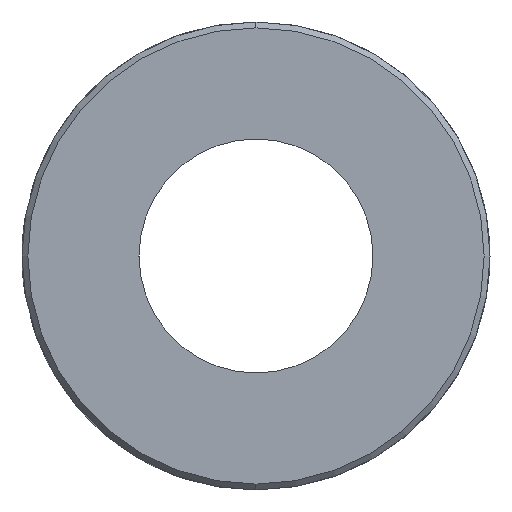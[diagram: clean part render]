
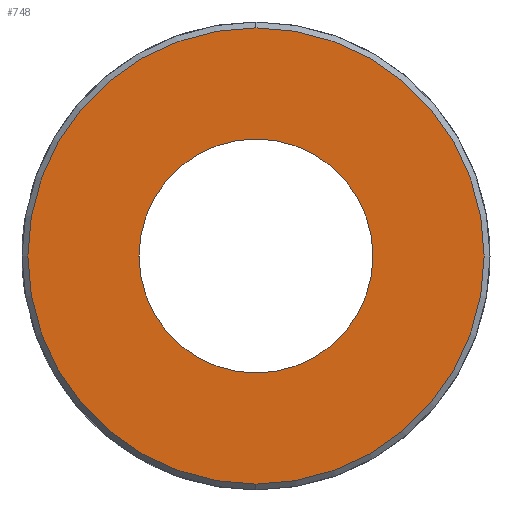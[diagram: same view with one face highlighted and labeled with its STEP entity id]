
A CAD part, left-side view. The second image highlights one B-rep face of the part: STEP entity #748.
In plain terms, the highlighted planar face has unit normal (-1, 0, 0) as drawn and (0, 0, 1) by its records, which use the part's own axes.
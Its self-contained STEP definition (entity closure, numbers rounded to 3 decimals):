
#18 = AXIS2_PLACEMENT_3D ( 'NONE', #1558, #1306, #31 ) ;
#31 = DIRECTION ( 'NONE',  ( 1., 0., 0. ) ) ;
#54 = ORIENTED_EDGE ( 'NONE', *, *, #115, .T. ) ;
#55 = CARTESIAN_POINT ( 'NONE',  ( 0., 0., 4. ) ) ;
#115 = EDGE_CURVE ( 'NONE', #1425, #1181, #1265, .T. ) ;
#259 = CARTESIAN_POINT ( 'NONE',  ( -7.8, 0., 4. ) ) ;
#311 = DIRECTION ( 'NONE',  ( 0., 0., 1. ) ) ;
#319 = DIRECTION ( 'NONE',  ( 1., 0., 0. ) ) ;
#376 = DIRECTION ( 'NONE',  ( 0., 0., 1. ) ) ;
#405 = CARTESIAN_POINT ( 'NONE',  ( 4., 0., 4. ) ) ;
#464 = FACE_BOUND ( 'NONE', #944, .T. ) ;
#505 = VERTEX_POINT ( 'NONE', #405 ) ;
#560 = ORIENTED_EDGE ( 'NONE', *, *, #1792, .F. ) ;
#570 = CARTESIAN_POINT ( 'NONE',  ( -4., 0., 4. ) ) ;
#572 = CARTESIAN_POINT ( 'NONE',  ( 0., 0., 4. ) ) ;
#624 = CARTESIAN_POINT ( 'NONE',  ( 0., 0., 4. ) ) ;
#657 = AXIS2_PLACEMENT_3D ( 'NONE', #624, #907, #1185 ) ;
#677 = VERTEX_POINT ( 'NONE', #570 ) ;
#687 = EDGE_LOOP ( 'NONE', ( #1314, #54 ) ) ;
#718 = EDGE_CURVE ( 'NONE', #677, #505, #1097, .T. ) ;
#736 = PLANE ( 'NONE',  #657 ) ;
#748 = ADVANCED_FACE ( 'NONE', ( #1746, #464 ), #736, .T. ) ;
#765 = AXIS2_PLACEMENT_3D ( 'NONE', #55, #311, #319 ) ;
#794 = AXIS2_PLACEMENT_3D ( 'NONE', #1078, #376, #1363 ) ;
#862 = DIRECTION ( 'NONE',  ( 0., 0., 1. ) ) ;
#907 = DIRECTION ( 'NONE',  ( 0., 0., 1. ) ) ;
#944 = EDGE_LOOP ( 'NONE', ( #1239, #560 ) ) ;
#954 = DIRECTION ( 'NONE',  ( 1., 0., 0. ) ) ;
#1031 = AXIS2_PLACEMENT_3D ( 'NONE', #572, #862, #954 ) ;
#1069 = EDGE_CURVE ( 'NONE', #1181, #1425, #1351, .T. ) ;
#1078 = CARTESIAN_POINT ( 'NONE',  ( 0., 0., 4. ) ) ;
#1097 = CIRCLE ( 'NONE', #765, 4. ) ;
#1181 = VERTEX_POINT ( 'NONE', #259 ) ;
#1185 = DIRECTION ( 'NONE',  ( 1., 0., 0. ) ) ;
#1239 = ORIENTED_EDGE ( 'NONE', *, *, #718, .F. ) ;
#1265 = CIRCLE ( 'NONE', #1031, 7.8 ) ;
#1306 = DIRECTION ( 'NONE',  ( 0., 0., 1. ) ) ;
#1314 = ORIENTED_EDGE ( 'NONE', *, *, #1069, .T. ) ;
#1351 = CIRCLE ( 'NONE', #794, 7.8 ) ;
#1363 = DIRECTION ( 'NONE',  ( 1., 0., 0. ) ) ;
#1425 = VERTEX_POINT ( 'NONE', #1689 ) ;
#1558 = CARTESIAN_POINT ( 'NONE',  ( 0., 0., 4. ) ) ;
#1606 = CIRCLE ( 'NONE', #18, 4. ) ;
#1689 = CARTESIAN_POINT ( 'NONE',  ( 7.8, 0., 4. ) ) ;
#1746 = FACE_OUTER_BOUND ( 'NONE', #687, .T. ) ;
#1792 = EDGE_CURVE ( 'NONE', #505, #677, #1606, .T. ) ;
